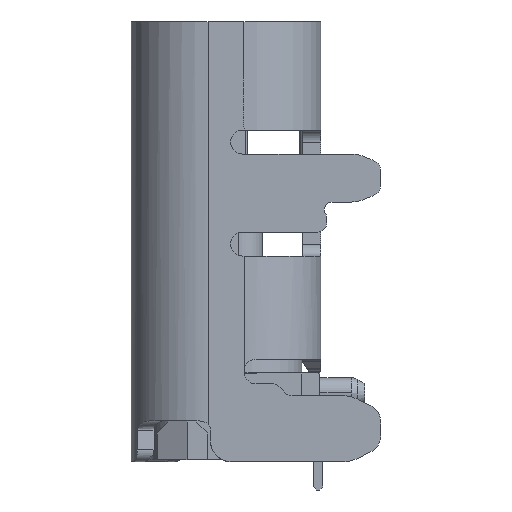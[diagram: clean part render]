
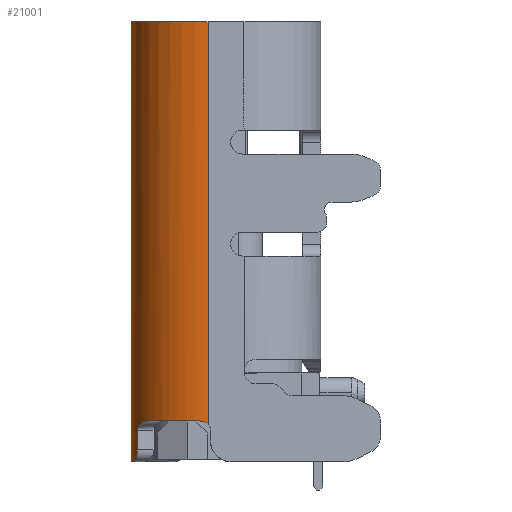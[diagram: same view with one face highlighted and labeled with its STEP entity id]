
A CAD part, left-side view. The second image highlights one B-rep face of the part: STEP entity #21001.
In plain terms, the highlighted cylindrical face has radius 1.28 mm (diameter 2.56 mm), a partial arc.
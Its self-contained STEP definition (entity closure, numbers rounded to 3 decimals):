
#440=CARTESIAN_POINT('',(-3.19,0.3,-1.85));
#441=DIRECTION('',(0.,0.,1.));
#442=DIRECTION('',(-0.986,0.164,0.));
#443=AXIS2_PLACEMENT_3D('',#440,#441,#442);
#5178=CARTESIAN_POINT('',(-3.19,0.3,-2.53));
#5179=DIRECTION('',(0.,0.,1.));
#5180=DIRECTION('',(0.,1.,0.));
#5181=AXIS2_PLACEMENT_3D('',#5178,#5179,#5180);
#5195=CARTESIAN_POINT('',(-4.014,1.28,-1.85));
#5196=CARTESIAN_POINT('',(-3.999,1.292,-1.85));
#5197=CARTESIAN_POINT('',(-3.971,1.315,
-1.852));
#5198=CARTESIAN_POINT('',(-3.933,1.343,
-1.858));
#5199=CARTESIAN_POINT('',(-3.898,1.366,
-1.865));
#5200=CARTESIAN_POINT('',(-3.867,1.386,
-1.874));
#5201=CARTESIAN_POINT('',(-3.839,1.403,
-1.883));
#5202=CARTESIAN_POINT('',(-3.814,1.418,
-1.893));
#5203=CARTESIAN_POINT('',(-3.792,1.43,
-1.903));
#5204=CARTESIAN_POINT('',(-3.772,1.44,
-1.914));
#5205=CARTESIAN_POINT('',(-3.754,1.449,
-1.924));
#5206=CARTESIAN_POINT('',(-3.739,1.456,
-1.935));
#5207=CARTESIAN_POINT('',(-3.726,1.463,
-1.946));
#5208=CARTESIAN_POINT('',(-3.715,1.467,
-1.957));
#5209=CARTESIAN_POINT('',(-3.707,1.471,
-1.968));
#5210=CARTESIAN_POINT('',(-3.701,1.474,
-1.979));
#5211=CARTESIAN_POINT('',(-3.697,1.475,
-1.99));
#5212=CARTESIAN_POINT('',(-3.697,1.476,
-1.997));
#5213=CARTESIAN_POINT('',(-3.697,1.476,-2.));
#5215=DIRECTION('',(0.,0.,-1.));
#5216=VECTOR('',#5215,0.33);
#5217=CARTESIAN_POINT('',(-3.697,1.476,-2.));
#5218=LINE('',#5217,#5216);
#5219=CARTESIAN_POINT('',(-3.697,1.476,-2.33));
#5220=CARTESIAN_POINT('',(-3.697,1.476,
-2.348));
#5221=CARTESIAN_POINT('',(-3.692,1.477,
-2.382));
#5222=CARTESIAN_POINT('',(-3.674,1.485,
-2.431));
#5223=CARTESIAN_POINT('',(-3.644,1.497,
-2.472));
#5224=CARTESIAN_POINT('',(-3.606,1.511,
-2.504));
#5225=CARTESIAN_POINT('',(-3.558,1.526,
-2.525));
#5226=CARTESIAN_POINT('',(-3.524,1.536,-2.53));
#5227=CARTESIAN_POINT('',(-3.507,1.54,-2.53));
#5229=DIRECTION('',(0.,0.,1.));
#5230=VECTOR('',#5229,7.33);
#5231=CARTESIAN_POINT('',(-3.19,1.58,-2.53));
#5232=LINE('',#5231,#5230);
#5233=DIRECTION('',(0.,0.,-1.));
#5234=VECTOR('',#5233,6.698);
#5235=CARTESIAN_POINT('',(-4.47,0.3,4.8));
#5236=LINE('',#5235,#5234);
#5237=CARTESIAN_POINT('',(-4.47,0.3,-1.898));
#5238=CARTESIAN_POINT('',(-4.47,0.312,-1.889));
#5239=CARTESIAN_POINT('',(-4.47,0.337,
-1.872));
#5240=CARTESIAN_POINT('',(-4.467,0.389,
-1.854));
#5241=CARTESIAN_POINT('',(-4.464,0.425,
-1.85));
#5242=CARTESIAN_POINT('',(-4.462,0.444,-1.85));
#5244=CARTESIAN_POINT('',(-3.19,0.3,-1.85));
#5245=DIRECTION('',(0.,0.,1.));
#5246=DIRECTION('',(-0.861,0.508,0.));
#5247=AXIS2_PLACEMENT_3D('',#5244,#5245,#5246);
#5302=CARTESIAN_POINT('',(-3.19,0.3,-1.85));
#5303=DIRECTION('',(0.,0.,1.));
#5304=DIRECTION('',(-0.644,0.765,0.));
#5305=AXIS2_PLACEMENT_3D('',#5302,#5303,#5304);
#6898=CARTESIAN_POINT('',(-3.19,0.3,4.8));
#6899=DIRECTION('',(0.,0.,-1.));
#6900=DIRECTION('',(-1.,0.,0.));
#6901=AXIS2_PLACEMENT_3D('',#6898,#6899,#6900);
#11155=CARTESIAN_POINT('',(-4.453,0.51,
-1.85));
#11156=VERTEX_POINT('',#11155);
#11157=CARTESIAN_POINT('',(-4.462,0.444,-1.85));
#11158=VERTEX_POINT('',#11157);
#11161=CARTESIAN_POINT('',(-4.293,0.95,
-1.85));
#11163=VERTEX_POINT('',#11161);
#11167=CARTESIAN_POINT('',(-4.014,1.28,-1.85));
#11168=VERTEX_POINT('',#11167);
#12660=CARTESIAN_POINT('',(-4.47,0.3,-1.898));
#12661=VERTEX_POINT('',#12660);
#12997=CARTESIAN_POINT('',(-3.19,1.58,-2.53));
#12998=VERTEX_POINT('',#12997);
#12999=CARTESIAN_POINT('',(-3.507,1.54,-2.53));
#13000=VERTEX_POINT('',#12999);
#13039=CARTESIAN_POINT('',(-3.19,1.58,4.8));
#13040=VERTEX_POINT('',#13039);
#13301=CARTESIAN_POINT('',(-4.47,0.3,4.8));
#13302=VERTEX_POINT('',#13301);
#13375=VERTEX_POINT('',#5213);
#13376=CARTESIAN_POINT('',(-3.697,1.476,-2.33));
#13377=VERTEX_POINT('',#13376);
#20975=CARTESIAN_POINT('',(-3.19,0.3,-2.53));
#20976=DIRECTION('',(0.,0.,1.));
#20977=DIRECTION('',(1.,0.,0.));
#20978=AXIS2_PLACEMENT_3D('',#20975,#20976,#20977);
#20979=CYLINDRICAL_SURFACE('',#20978,1.28);
#20981=ORIENTED_EDGE('',*,*,#20980,.F.);
#20983=ORIENTED_EDGE('',*,*,#20982,.F.);
#20985=ORIENTED_EDGE('',*,*,#20984,.T.);
#20987=ORIENTED_EDGE('',*,*,#20986,.T.);
#20989=ORIENTED_EDGE('',*,*,#20988,.T.);
#20990=ORIENTED_EDGE('',*,*,#20956,.F.);
#20991=ORIENTED_EDGE('',*,*,#19960,.T.);
#20993=ORIENTED_EDGE('',*,*,#20992,.F.);
#20995=ORIENTED_EDGE('',*,*,#20994,.T.);
#20997=ORIENTED_EDGE('',*,*,#20996,.T.);
#20998=ORIENTED_EDGE('',*,*,#14533,.F.);
#20999=EDGE_LOOP('',(#20981,#20983,#20985,#20987,#20989,#20990,#20991,#20993,
#20995,#20997,#20998));
#21000=FACE_OUTER_BOUND('',#20999,.F.);
#21001=ADVANCED_FACE('',(#21000),#20979,.T.);
#444=CIRCLE('',#443,1.28);
#5182=CIRCLE('',#5181,1.28);
#5214=B_SPLINE_CURVE_WITH_KNOTS('',3,(#5195,#5196,#5197,#5198,#5199,#5200,#5201,
#5202,#5203,#5204,#5205,#5206,#5207,#5208,#5209,#5210,#5211,#5212,#5213),
.UNSPECIFIED.,.F.,.F.,(4,1,1,1,1,1,1,1,1,1,1,1,1,1,1,1,4),(0.,0.063,0.125,
0.188,0.25,0.313,0.375,0.438,0.5,0.563,0.625,0.688,
0.75,0.813,0.875,0.938,1.),.UNSPECIFIED.);
#5228=B_SPLINE_CURVE_WITH_KNOTS('',3,(#5219,#5220,#5221,#5222,#5223,#5224,#5225,
#5226,#5227),.UNSPECIFIED.,.F.,.F.,(4,1,1,1,1,1,4),(0.,0.167,
0.333,0.5,0.667,0.833,1.),
.UNSPECIFIED.);
#5243=B_SPLINE_CURVE_WITH_KNOTS('',3,(#5237,#5238,#5239,#5240,#5241,#5242),
.UNSPECIFIED.,.F.,.F.,(4,1,1,4),(0.,0.333,0.667,1.),
.UNSPECIFIED.);
#5248=CIRCLE('',#5247,1.28);
#5306=CIRCLE('',#5305,1.28);
#6902=CIRCLE('',#6901,1.28);
#14533=EDGE_CURVE('',#11156,#11158,#444,.T.);
#19960=EDGE_CURVE('',#12998,#13040,#5232,.T.);
#20956=EDGE_CURVE('',#12998,#13000,#5182,.T.);
#20980=EDGE_CURVE('',#11163,#11156,#5248,.T.);
#20982=EDGE_CURVE('',#11168,#11163,#5306,.T.);
#20984=EDGE_CURVE('',#11168,#13375,#5214,.T.);
#20986=EDGE_CURVE('',#13375,#13377,#5218,.T.);
#20988=EDGE_CURVE('',#13377,#13000,#5228,.T.);
#20992=EDGE_CURVE('',#13302,#13040,#6902,.T.);
#20994=EDGE_CURVE('',#13302,#12661,#5236,.T.);
#20996=EDGE_CURVE('',#12661,#11158,#5243,.T.);
